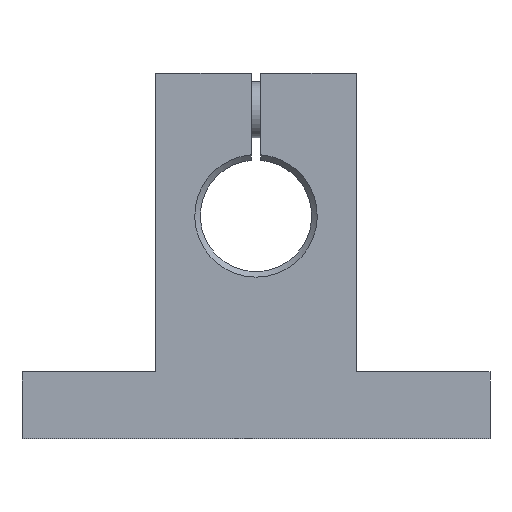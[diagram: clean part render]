
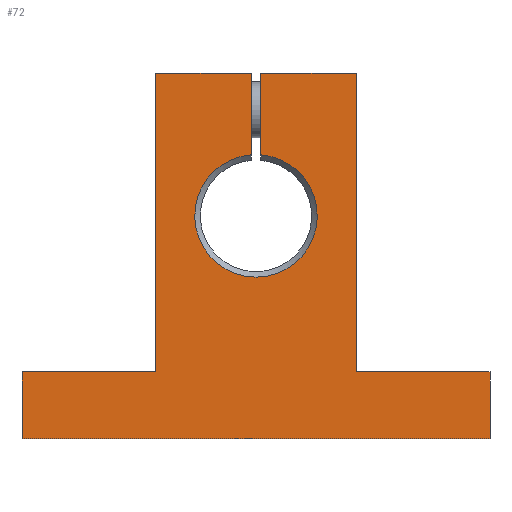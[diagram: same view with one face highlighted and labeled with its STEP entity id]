
A CAD part, front view. The second image highlights one B-rep face of the part: STEP entity #72.
In plain terms, the highlighted planar face has unit normal (0, -1, 0).
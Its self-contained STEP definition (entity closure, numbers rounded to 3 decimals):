
#72 = ADVANCED_FACE( '', ( #170 ), #171, .T. );
#170 = FACE_OUTER_BOUND( '', #306, .T. );
#171 = PLANE( '', #307 );
#306 = EDGE_LOOP( '', ( #472, #473, #474, #475, #476, #477, #478, #479, #480, #481, #482, #483 ) );
#307 = AXIS2_PLACEMENT_3D( '', #484, #485, #486 );
#472 = ORIENTED_EDGE( '', *, *, #717, .F. );
#473 = ORIENTED_EDGE( '', *, *, #748, .T. );
#474 = ORIENTED_EDGE( '', *, *, #749, .F. );
#475 = ORIENTED_EDGE( '', *, *, #750, .F. );
#476 = ORIENTED_EDGE( '', *, *, #751, .F. );
#477 = ORIENTED_EDGE( '', *, *, #752, .F. );
#478 = ORIENTED_EDGE( '', *, *, #753, .F. );
#479 = ORIENTED_EDGE( '', *, *, #754, .F. );
#480 = ORIENTED_EDGE( '', *, *, #755, .F. );
#481 = ORIENTED_EDGE( '', *, *, #756, .F. );
#482 = ORIENTED_EDGE( '', *, *, #757, .F. );
#483 = ORIENTED_EDGE( '', *, *, #720, .F. );
#484 = CARTESIAN_POINT( '', ( 0., -7., 0. ) );
#485 = DIRECTION( '', ( 0., -1., 0. ) );
#486 = DIRECTION( '', ( 1., 0., 0. ) );
#717 = EDGE_CURVE( '', #834, #836, #837, .T. );
#720 = EDGE_CURVE( '', #836, #840, #841, .T. );
#748 = EDGE_CURVE( '', #834, #889, #890, .F. );
#749 = EDGE_CURVE( '', #891, #889, #892, .T. );
#750 = EDGE_CURVE( '', #893, #891, #894, .T. );
#751 = EDGE_CURVE( '', #895, #893, #896, .T. );
#752 = EDGE_CURVE( '', #897, #895, #898, .T. );
#753 = EDGE_CURVE( '', #899, #897, #900, .T. );
#754 = EDGE_CURVE( '', #901, #899, #902, .T. );
#755 = EDGE_CURVE( '', #903, #901, #904, .T. );
#756 = EDGE_CURVE( '', #905, #903, #906, .T. );
#757 = EDGE_CURVE( '', #840, #905, #907, .T. );
#834 = VERTEX_POINT( '', #1007 );
#836 = VERTEX_POINT( '', #1012 );
#837 = LINE( '', #1013, #1014 );
#840 = VERTEX_POINT( '', #1018 );
#841 = LINE( '', #1019, #1020 );
#889 = VERTEX_POINT( '', #1085 );
#890 = CIRCLE( '', #1086, 5.5 );
#891 = VERTEX_POINT( '', #1087 );
#892 = LINE( '', #1088, #1089 );
#893 = VERTEX_POINT( '', #1090 );
#894 = LINE( '', #1091, #1092 );
#895 = VERTEX_POINT( '', #1093 );
#896 = LINE( '', #1094, #1095 );
#897 = VERTEX_POINT( '', #1096 );
#898 = LINE( '', #1097, #1098 );
#899 = VERTEX_POINT( '', #1099 );
#900 = LINE( '', #1100, #1101 );
#901 = VERTEX_POINT( '', #1102 );
#902 = LINE( '', #1103, #1104 );
#903 = VERTEX_POINT( '', #1105 );
#904 = LINE( '', #1106, #1107 );
#905 = VERTEX_POINT( '', #1108 );
#906 = LINE( '', #1109, #1110 );
#907 = LINE( '', #1111, #1112 );
#1007 = CARTESIAN_POINT( '', ( 0.42, -7., 5.484 ) );
#1012 = CARTESIAN_POINT( '', ( 0.42, -7., 12.8 ) );
#1013 = CARTESIAN_POINT( '', ( 0.42, -7., 12.8 ) );
#1014 = VECTOR( '', #1229, 1000. );
#1018 = CARTESIAN_POINT( '', ( 9., -7., 12.8 ) );
#1019 = CARTESIAN_POINT( '', ( 9., -7., 12.8 ) );
#1020 = VECTOR( '', #1231, 1000. );
#1085 = CARTESIAN_POINT( '', ( -0.42, -7., 5.484 ) );
#1086 = AXIS2_PLACEMENT_3D( '', #1264, #1265, #1266 );
#1087 = CARTESIAN_POINT( '', ( -0.42, -7., 12.8 ) );
#1088 = CARTESIAN_POINT( '', ( -0.42, -7., 4.982 ) );
#1089 = VECTOR( '', #1267, 1000. );
#1090 = CARTESIAN_POINT( '', ( -9., -7., 12.8 ) );
#1091 = CARTESIAN_POINT( '', ( -0.42, -7., 12.8 ) );
#1092 = VECTOR( '', #1268, 1000. );
#1093 = CARTESIAN_POINT( '', ( -9., -7., -14. ) );
#1094 = CARTESIAN_POINT( '', ( -9., -7., 12.8 ) );
#1095 = VECTOR( '', #1269, 1000. );
#1096 = CARTESIAN_POINT( '', ( -21., -7., -14. ) );
#1097 = CARTESIAN_POINT( '', ( -9., -7., -14. ) );
#1098 = VECTOR( '', #1270, 1000. );
#1099 = CARTESIAN_POINT( '', ( -21., -7., -20. ) );
#1100 = CARTESIAN_POINT( '', ( -21., -7., -14. ) );
#1101 = VECTOR( '', #1271, 1000. );
#1102 = CARTESIAN_POINT( '', ( 21., -7., -20. ) );
#1103 = CARTESIAN_POINT( '', ( -21., -7., -20. ) );
#1104 = VECTOR( '', #1272, 1000. );
#1105 = CARTESIAN_POINT( '', ( 21., -7., -14. ) );
#1106 = CARTESIAN_POINT( '', ( 21., -7., -20. ) );
#1107 = VECTOR( '', #1273, 1000. );
#1108 = CARTESIAN_POINT( '', ( 9., -7., -14. ) );
#1109 = CARTESIAN_POINT( '', ( 21., -7., -14. ) );
#1110 = VECTOR( '', #1274, 1000. );
#1111 = CARTESIAN_POINT( '', ( 9., -7., -14. ) );
#1112 = VECTOR( '', #1275, 1000. );
#1229 = DIRECTION( '', ( 0., 0., 1. ) );
#1231 = DIRECTION( '', ( 1., 0., 0. ) );
#1264 = CARTESIAN_POINT( '', ( 0., -7., 0. ) );
#1265 = DIRECTION( '', ( 0., -1., 0. ) );
#1266 = DIRECTION( '', ( 0., 0., -1. ) );
#1267 = DIRECTION( '', ( 0., 0., -1. ) );
#1268 = DIRECTION( '', ( 1., 0., 0. ) );
#1269 = DIRECTION( '', ( 0., 0., 1. ) );
#1270 = DIRECTION( '', ( 1., 0., 0. ) );
#1271 = DIRECTION( '', ( 0., 0., 1. ) );
#1272 = DIRECTION( '', ( -1., 0., 0. ) );
#1273 = DIRECTION( '', ( 0., 0., -1. ) );
#1274 = DIRECTION( '', ( 1., 0., 0. ) );
#1275 = DIRECTION( '', ( 0., 0., -1. ) );
